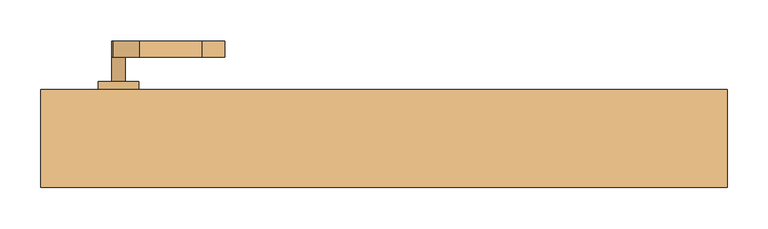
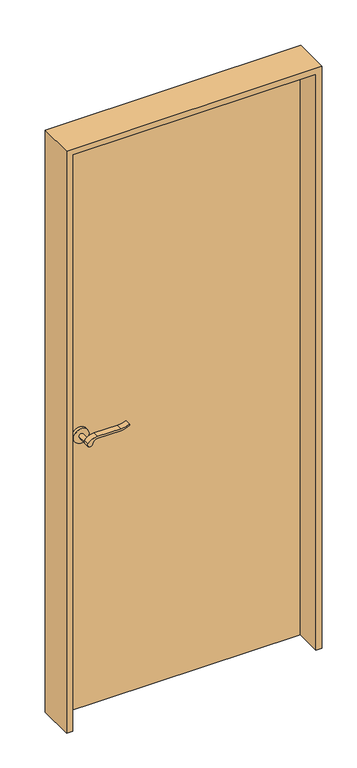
"""IFC4 building model written with IfcOpenShell, lengths in millimetres: door geometry."""

from ifc_helpers import new_model, si_unit, point, frame, frame_2d, origin, origin_with_axes, place, context, project, spatial, polyline, circle_curve, trimmed, segment, composite_curve, outline, extrude, source, transform, mapped, element, save


def door_3b96e66a(model_context):
    return source(origin(), model_context, "Body", "SweptSolid", [
        extrude(outline(composite_curve([segment(trimmed(circle_curve(frame_2d((950.0, -325.0)), 8.0), [point((954.6523287, -331.5081363))], [point((950.0, -317.0))], False, "CARTESIAN"), True, "CONTINUOUS"), segment(trimmed(circle_curve(frame_2d((944.8738613, -299.6138099)), 18.1261387), [point((950.0, -317.0))], [point((963.0, -299.6138099))], True, "CARTESIAN"), True, "CONTINUOUS"), segment(polyline([(963.0, -299.6138099), (963.0, -223.3564091)]), True, "CONTINUOUS"), segment(trimmed(circle_curve(frame_2d((1022.2709207, -226.9396612)), 59.3791355), [point((963.0, -223.3564091))], [point((972.2135558, -195.0))], False, "CARTESIAN"), True, "CONTINUOUS"), segment(polyline([(972.2135558, -195.0), (975.0, -195.0)]), True, "CONTINUOUS"), segment(trimmed(circle_curve(frame_2d((1053.2850638, -223.4227909)), 83.2850902), [point((975.0, -195.0))], [point((970.0, -223.3564091))], True, "CARTESIAN"), True, "CONTINUOUS"), segment(polyline([(970.0, -223.3564091), (970.0, -299.6325667)]), True, "CONTINUOUS"), segment(trimmed(circle_curve(frame_2d((932.7555521, -301.3324871)), 37.2832219), [point((970.0, -299.6325667))], [point((954.6523287, -331.5081363))], False, "CARTESIAN"), True, "CONTINUOUS")], self_intersect=False)), frame((0.0, 100.0, 0.0), z_axis=(0.0, 1.0, 0.0), x_axis=(0.0, 0.0, 1.0)), (0.0, 0.0, 1.0), 20.0),
        extrude(outline(composite_curve([segment(trimmed(circle_curve(frame_2d((944.8738682, -299.6138122)), 18.1261318), [point((949.9999903, -317.0))], [point((963.0, -299.6138122))], True, "CARTESIAN"), True, "CONTINUOUS"), segment(polyline([(963.0, -299.6138122), (963.0, -223.3564091)]), True, "CONTINUOUS"), segment(trimmed(circle_curve(frame_2d((1022.2709207, -226.9396612)), 59.3791355), [point((963.0, -223.3564091))], [point((972.2135558, -195.0))], False, "CARTESIAN"), True, "CONTINUOUS"), segment(polyline([(972.2135558, -195.0), (975.0, -195.0)]), True, "CONTINUOUS"), segment(trimmed(circle_curve(frame_2d((1053.2850638, -223.4227909)), 83.2850902), [point((975.0, -195.0))], [point((970.0, -223.3564091))], True, "CARTESIAN"), True, "CONTINUOUS"), segment(polyline([(970.0, -223.3564091), (970.0, -299.6325667)]), True, "CONTINUOUS"), segment(trimmed(circle_curve(frame_2d((932.7555521, -301.3324871)), 37.2832219), [point((970.0, -299.6325667))], [point((954.6523287, -331.5081363))], False, "CARTESIAN"), True, "CONTINUOUS"), segment(trimmed(circle_curve(frame_2d((950.0, -325.0)), 8.0), [point((954.6523287, -331.5081363))], [point((949.9999903, -317.0))], False, "CARTESIAN"), True, "CONTINUOUS")], self_intersect=False)), frame((0.0, -30.0, 0.0), z_axis=(0.0, 1.0, 0.0), x_axis=(0.0, 0.0, 1.0)), (0.0, 0.0, 1.0), 20.0),
        extrude(outline(composite_curve([segment(trimmed(circle_curve(frame_2d((950.0, -325.0)), 8.0), [point((950.0, -333.0))], [point((950.0, -317.0))], False, "CARTESIAN"), True, "CONTINUOUS"), segment(trimmed(circle_curve(frame_2d((950.0, -325.0)), 8.0), [point((950.0, -317.0))], [point((950.0, -333.0))], False, "CARTESIAN"), True, "CONTINUOUS")], self_intersect=False)), frame((0.0, 70.0, 0.0), z_axis=(0.0, 1.0, 0.0), x_axis=(0.0, 0.0, 1.0)), (0.0, 0.0, 1.0), 30.0),
        extrude(outline(composite_curve([segment(trimmed(circle_curve(frame_2d((950.0, -325.0)), 8.0), [point((950.0, -333.0))], [point((950.0, -317.0))], False, "CARTESIAN"), True, "CONTINUOUS"), segment(trimmed(circle_curve(frame_2d((950.0, -325.0)), 8.0), [point((950.0, -317.0))], [point((950.0, -333.0))], False, "CARTESIAN"), True, "CONTINUOUS")], self_intersect=False)), frame((0.0, -10.0, 0.0), z_axis=(0.0, 1.0, 0.0), x_axis=(0.0, 0.0, 1.0)), (0.0, 0.0, 1.0), 30.0),
        extrude(outline(composite_curve([segment(trimmed(circle_curve(frame_2d((950.0, -325.0)), 25.0), [point((950.0, -350.0))], [point((950.0, -300.0))], False, "CARTESIAN"), True, "CONTINUOUS"), segment(trimmed(circle_curve(frame_2d((950.0, -325.0)), 25.0), [point((950.0, -300.0))], [point((950.0, -350.0))], False, "CARTESIAN"), True, "CONTINUOUS")], self_intersect=False)), frame((0.0, 60.0, 0.0), z_axis=(0.0, 1.0, 0.0), x_axis=(0.0, 0.0, 1.0)), (0.0, 0.0, 1.0), 10.0),
        extrude(outline(composite_curve([segment(trimmed(circle_curve(frame_2d((950.0, -325.0)), 25.0), [point((950.0, -350.0))], [point((950.0, -300.0))], False, "CARTESIAN"), True, "CONTINUOUS"), segment(trimmed(circle_curve(frame_2d((950.0, -325.0)), 25.0), [point((950.0, -300.0))], [point((950.0, -350.0))], False, "CARTESIAN"), True, "CONTINUOUS")], self_intersect=False)), frame((0.0, 20.0, 0.0), z_axis=(0.0, 1.0, 0.0), x_axis=(0.0, 0.0, 1.0)), (0.0, 0.0, 1.0), 10.0),
        extrude(outline(polyline([(2020.0, -420.0), (0.0, -420.0), (0.0, -400.0), (2000.0, -400.0), (2000.0, 400.0), (0.0, 400.0), (0.0, 420.0), (2020.0, 420.0), (2020.0, -420.0)])), frame((0.0, -60.0, 0.0), z_axis=(0.0, 1.0, 0.0), x_axis=(0.0, 0.0, 1.0)), (0.0, 0.0, 1.0), 120.0),
        extrude(outline(polyline([(400.0, 30.0), (-400.0, 30.0), (-400.0, 60.0), (400.0, 60.0), (400.0, 30.0)])), origin_with_axes(), (0.0, 0.0, 1.0), 2000.0),
    ])


if __name__ == "__main__":
    model = new_model("IFC4")
    model_context = context("Model", 3, world=origin())
    ifc_project = project(units=[si_unit("LENGTHUNIT", "METRE", prefix="MILLI")], contexts=[model_context])
    site = spatial("IfcSite", under=ifc_project)
    building = spatial("IfcBuilding", under=site)
    placement = place(None, origin())
    door_shape = door_3b96e66a(model_context)
    element("IfcDoor", 1, ObjectType="木製_片開き_フラッシュ : WD-1\u3000w800h2000", at=placement, inside=building, context=model_context, shape_type="MappedRepresentation", body=[
        mapped(door_shape, transform((0.0, 0.0, 0.0), x_axis=(1.0, 0.0, 0.0), y_axis=(0.0, 1.0, 0.0), z_axis=(0.0, 0.0, 1.0))),
    ])
    save(model, "model.ifc")
